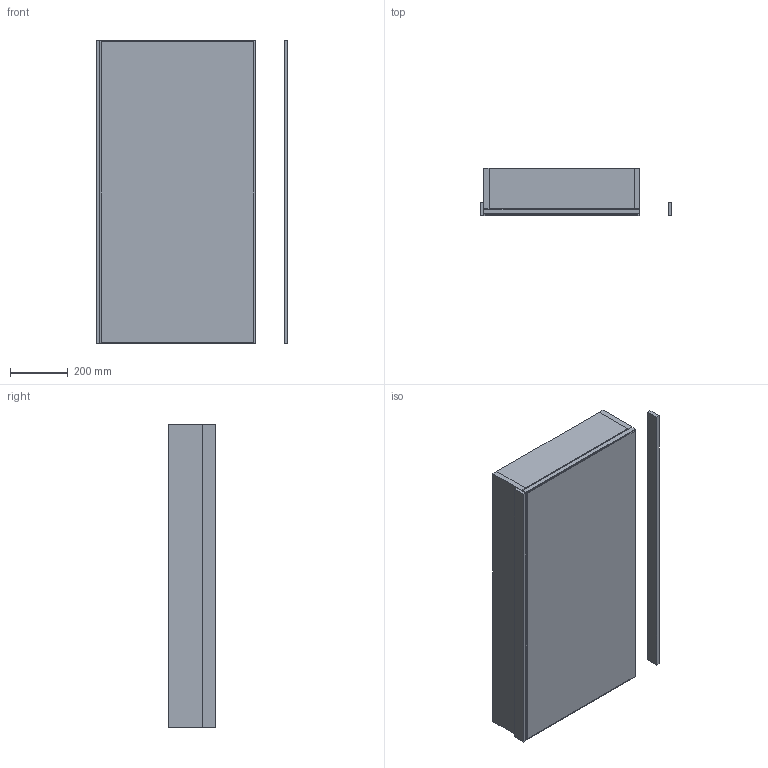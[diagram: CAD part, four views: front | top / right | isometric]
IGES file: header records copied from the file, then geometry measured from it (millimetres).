
Start section: Data from Parasolid IGES Translator 19.0.9, Copyright(c) 2006 Siemens PL M Software. All Rights Reserved.
Global section: file name: noorth-mirror-H 105 D 4,5-16 W 54_9155.igs; native system: By Siemens PLM Incorporated; preprocessor: XPlus GENERIC/IGES 19.0.9; author: Noname; organization: Noname; date: 20200519.113157; units: metre
Bounding box: 663.82 x 162 x 1050 mm (x, y, z)
Volume: 22012583.8 mm3; surface area: 4619180.7 mm2
Topology: 10 solids, 10 shells, 84 faces, 168 edges, 104 vertices
Faces by surface type: plane 84
